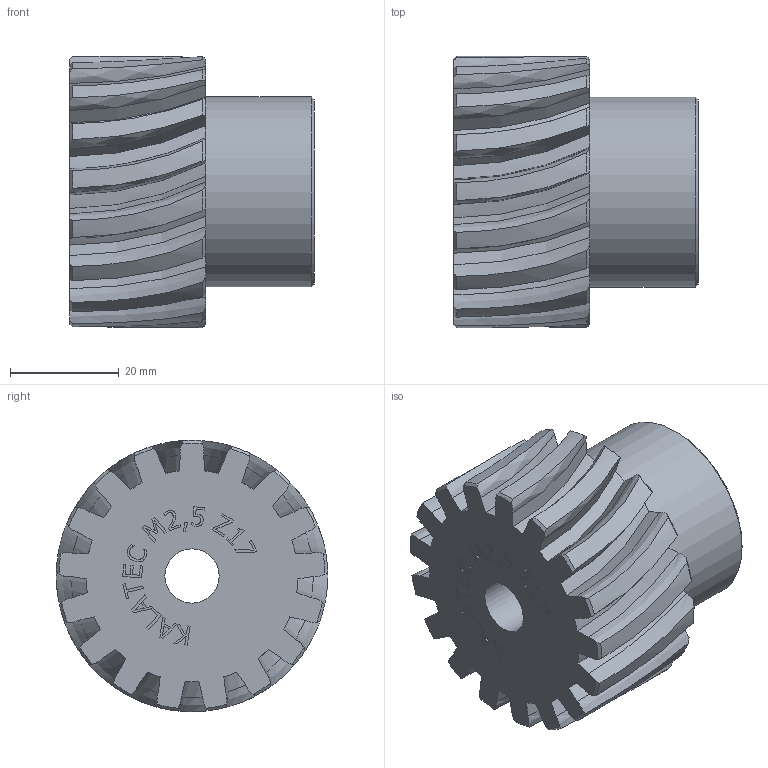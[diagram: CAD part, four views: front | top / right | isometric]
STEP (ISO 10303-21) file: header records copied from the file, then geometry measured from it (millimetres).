
FILE_DESCRIPTION(/* description */ (''),/* implementation_level */ '2;1');
FILE_NAME(/* name */ '\\JOINapp01\Profiles\martins\Desktop\ENGRENAGEM\ENGRENAGEM CORRETA\ENG DENTE HELICOIDAL M2,5 Z17.step',/* time_stamp */ '2018-07-04T08:00:21-03:00',/* author */ ('martins'),/* organization */ (''),/* preprocessor_version */ 'ST-DEVELOPER v16.1',/* originating_system */ 'Autodesk Inventor 2016',/* authorisation */ '');
FILE_SCHEMA (('AUTOMOTIVE_DESIGN { 1 0 10303 214 3 1 1 }'));
Length unit declared in the file: millimetre
Products named in the file (1): ENG DENTE HELICOIDAL M2,5 Z17
Bounding box: 45 x 50 x 49.99 mm (x, y, z)
Volume: 55974.8 mm3; surface area: 14054.8 mm2
Topology: 1 solids, 1 shells, 319 faces, 905 edges, 603 vertices
Faces by surface type: plane 139, bspline 126, cone 35, cylinder 19
Full cylindrical faces by diameter (mm): 10 x1, 35 x1
Entity records: 11232 total; most frequent: CARTESIAN_POINT 3501, ORIENTED_EDGE 1804, DIRECTION 1349, EDGE_CURVE 902, VERTEX_POINT 603, LINE 475, VECTOR 475, AXIS2_PLACEMENT_3D 437
